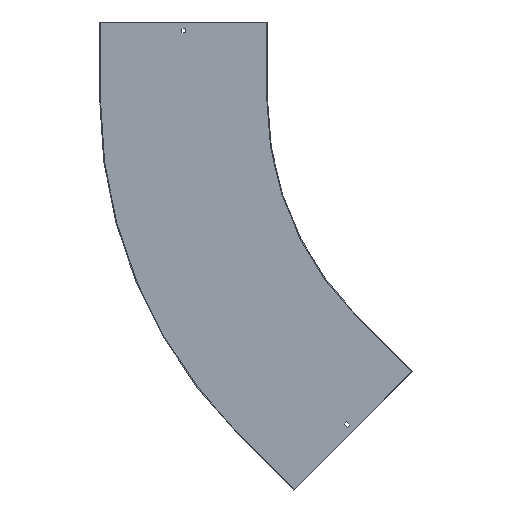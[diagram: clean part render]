
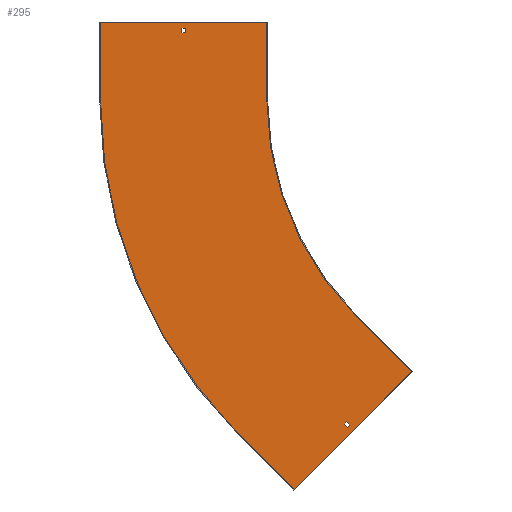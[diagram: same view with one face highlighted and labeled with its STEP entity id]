
A CAD part, front view. The second image highlights one B-rep face of the part: STEP entity #295.
In plain terms, the highlighted planar face has unit normal (0, -1, 0).
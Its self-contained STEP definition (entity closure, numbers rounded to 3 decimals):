
#6 = ORIENTED_EDGE ( 'NONE', *, *, #359, .T. ) ;
#10 = CARTESIAN_POINT ( 'NONE',  ( -528.032, -1.5, -528.032 ) ) ;
#13 = VERTEX_POINT ( 'NONE', #125 ) ;
#21 = VECTOR ( 'NONE', #682, 1000. ) ;
#24 = AXIS2_PLACEMENT_3D ( 'NONE', #96, #162, #231 ) ;
#25 = ORIENTED_EDGE ( 'NONE', *, *, #154, .F. ) ;
#32 = VERTEX_POINT ( 'NONE', #576 ) ;
#42 = AXIS2_PLACEMENT_3D ( 'NONE', #799, #733, #424 ) ;
#58 = EDGE_CURVE ( 'NONE', #406, #191, #315, .T. ) ;
#59 = LINE ( 'NONE', #780, #844 ) ;
#60 = CARTESIAN_POINT ( 'NONE',  ( -746.75, -1.5, 0. ) ) ;
#72 = CARTESIAN_POINT ( 'NONE',  ( -532.628, -1.5, -532.628 ) ) ;
#75 = DIRECTION ( 'NONE',  ( 1., 0., 0. ) ) ;
#77 = CARTESIAN_POINT ( 'NONE',  ( -537.401, -1.5, -749.533 ) ) ;
#87 = EDGE_CURVE ( 'NONE', #13, #294, #570, .T. ) ;
#93 = VECTOR ( 'NONE', #600, 1000. ) ;
#94 = ORIENTED_EDGE ( 'NONE', *, *, #470, .F. ) ;
#96 = CARTESIAN_POINT ( 'NONE',  ( 0., -1.5, 0. ) ) ;
#114 = CARTESIAN_POINT ( 'NONE',  ( -746.75, -1.5, 138. ) ) ;
#117 = EDGE_CURVE ( 'NONE', #750, #477, #512, .T. ) ;
#123 = ORIENTED_EDGE ( 'NONE', *, *, #423, .T. ) ;
#124 = LINE ( 'NONE', #132, #462 ) ;
#125 = CARTESIAN_POINT ( 'NONE',  ( -590., -1.5, 150. ) ) ;
#132 = CARTESIAN_POINT ( 'NONE',  ( -310.066, -1.5, -522.198 ) ) ;
#154 = EDGE_CURVE ( 'NONE', #32, #539, #334, .T. ) ;
#155 = FACE_BOUND ( 'NONE', #502, .T. ) ;
#162 = DIRECTION ( 'NONE',  ( 0., -1., 0. ) ) ;
#165 = FACE_BOUND ( 'NONE', #484, .T. ) ;
#178 = DIRECTION ( 'NONE',  ( 0.707, 0., -0.707 ) ) ;
#191 = VERTEX_POINT ( 'NONE', #535 ) ;
#198 = EDGE_CURVE ( 'NONE', #354, #750, #338, .T. ) ;
#221 = CARTESIAN_POINT ( 'NONE',  ( -311.127, -1.5, -523.259 ) ) ;
#222 = VERTEX_POINT ( 'NONE', #615 ) ;
#225 = ORIENTED_EDGE ( 'NONE', *, *, #642, .F. ) ;
#231 = DIRECTION ( 'NONE',  ( 0., 0., -1. ) ) ;
#236 = ORIENTED_EDGE ( 'NONE', *, *, #241, .F. ) ;
#238 = DIRECTION ( 'NONE',  ( 0., 0., -1. ) ) ;
#241 = EDGE_CURVE ( 'NONE', #674, #558, #282, .T. ) ;
#253 = VERTEX_POINT ( 'NONE', #626 ) ;
#266 = LINE ( 'NONE', #675, #21 ) ;
#269 = DIRECTION ( 'NONE',  ( -0.707, 0., 0.707 ) ) ;
#273 = DIRECTION ( 'NONE',  ( -0.707, 0., -0.707 ) ) ;
#282 = LINE ( 'NONE', #483, #574 ) ;
#289 = ORIENTED_EDGE ( 'NONE', *, *, #717, .F. ) ;
#294 = VERTEX_POINT ( 'NONE', #541 ) ;
#295 = ADVANCED_FACE ( 'NONE', ( #155, #763, #165 ), #696, .T. ) ;
#308 = LINE ( 'NONE', #631, #449 ) ;
#311 = VECTOR ( 'NONE', #238, 1000. ) ;
#315 = LINE ( 'NONE', #60, #785 ) ;
#334 = LINE ( 'NONE', #77, #803 ) ;
#338 = LINE ( 'NONE', #10, #487 ) ;
#344 = CARTESIAN_POINT ( 'NONE',  ( -753.25, -1.5, 129. ) ) ;
#347 = ORIENTED_EDGE ( 'NONE', *, *, #683, .T. ) ;
#353 = CARTESIAN_POINT ( 'NONE',  ( -430.451, -1.5, -625.613 ) ) ;
#354 = VERTEX_POINT ( 'NONE', #353 ) ;
#359 = EDGE_CURVE ( 'NONE', #191, #689, #308, .T. ) ;
#369 = CARTESIAN_POINT ( 'NONE',  ( 97.581, -1.5, -97.581 ) ) ;
#373 = AXIS2_PLACEMENT_3D ( 'NONE', #579, #848, #442 ) ;
#379 = ORIENTED_EDGE ( 'NONE', *, *, #58, .T. ) ;
#394 = CIRCLE ( 'NONE', #373, 590. ) ;
#401 = CARTESIAN_POINT ( 'NONE',  ( -911.5, -1.5, 150. ) ) ;
#402 = CARTESIAN_POINT ( 'NONE',  ( -643.467, -1.5, -643.467 ) ) ;
#403 = EDGE_LOOP ( 'NONE', ( #289, #236, #496, #25, #612, #531, #225, #812 ) ) ;
#406 = VERTEX_POINT ( 'NONE', #114 ) ;
#423 = EDGE_CURVE ( 'NONE', #554, #406, #845, .T. ) ;
#424 = DIRECTION ( 'NONE',  ( 0., 0., -1. ) ) ;
#426 = EDGE_CURVE ( 'NONE', #253, #835, #59, .T. ) ;
#442 = DIRECTION ( 'NONE',  ( 0., 0., -1. ) ) ;
#444 = DIRECTION ( 'NONE',  ( -1., 0., 0. ) ) ;
#449 = VECTOR ( 'NONE', #444, 1000. ) ;
#453 = DIRECTION ( 'NONE',  ( -0.707, 0., -0.707 ) ) ;
#462 = VECTOR ( 'NONE', #273, 1000. ) ;
#467 = ORIENTED_EDGE ( 'NONE', *, *, #536, .F. ) ;
#470 = EDGE_CURVE ( 'NONE', #222, #354, #840, .T. ) ;
#477 = VERTEX_POINT ( 'NONE', #499 ) ;
#483 = CARTESIAN_POINT ( 'NONE',  ( -910., -1.5, 0. ) ) ;
#484 = EDGE_LOOP ( 'NONE', ( #123, #379, #6, #347 ) ) ;
#486 = VECTOR ( 'NONE', #453, 1000. ) ;
#487 = VECTOR ( 'NONE', #269, 1000. ) ;
#496 = ORIENTED_EDGE ( 'NONE', *, *, #796, .F. ) ;
#498 = EDGE_CURVE ( 'NONE', #835, #32, #124, .T. ) ;
#499 = CARTESIAN_POINT ( 'NONE',  ( -441.411, -1.5, -623.845 ) ) ;
#502 = EDGE_LOOP ( 'NONE', ( #622, #94, #467, #598 ) ) ;
#503 = DIRECTION ( 'NONE',  ( 1., 0., 0. ) ) ;
#512 = LINE ( 'NONE', #789, #486 ) ;
#520 = CARTESIAN_POINT ( 'NONE',  ( -753.25, -1.5, 138. ) ) ;
#524 = LINE ( 'NONE', #72, #93 ) ;
#527 = CARTESIAN_POINT ( 'NONE',  ( -910., -1.5, 0. ) ) ;
#531 = ORIENTED_EDGE ( 'NONE', *, *, #426, .F. ) ;
#532 = CARTESIAN_POINT ( 'NONE',  ( -436.815, -1.5, -619.249 ) ) ;
#534 = CARTESIAN_POINT ( 'NONE',  ( -910., -1.5, 150. ) ) ;
#535 = CARTESIAN_POINT ( 'NONE',  ( -746.75, -1.5, 129. ) ) ;
#536 = EDGE_CURVE ( 'NONE', #477, #222, #524, .T. ) ;
#539 = VERTEX_POINT ( 'NONE', #402 ) ;
#541 = CARTESIAN_POINT ( 'NONE',  ( -590., -1.5, 0. ) ) ;
#554 = VERTEX_POINT ( 'NONE', #520 ) ;
#558 = VERTEX_POINT ( 'NONE', #534 ) ;
#566 = DIRECTION ( 'NONE',  ( 0.707, 0., 0.707 ) ) ;
#570 = LINE ( 'NONE', #841, #311 ) ;
#572 = VECTOR ( 'NONE', #75, 1000. ) ;
#574 = VECTOR ( 'NONE', #684, 1000. ) ;
#576 = CARTESIAN_POINT ( 'NONE',  ( -537.401, -1.5, -749.533 ) ) ;
#579 = CARTESIAN_POINT ( 'NONE',  ( 0., -1.5, 0. ) ) ;
#581 = CARTESIAN_POINT ( 'NONE',  ( 0., -1.5, 138. ) ) ;
#598 = ORIENTED_EDGE ( 'NONE', *, *, #117, .F. ) ;
#600 = DIRECTION ( 'NONE',  ( 0.707, 0., -0.707 ) ) ;
#612 = ORIENTED_EDGE ( 'NONE', *, *, #498, .F. ) ;
#615 = CARTESIAN_POINT ( 'NONE',  ( -435.047, -1.5, -630.209 ) ) ;
#622 = ORIENTED_EDGE ( 'NONE', *, *, #198, .F. ) ;
#626 = CARTESIAN_POINT ( 'NONE',  ( -417.193, -1.5, -417.193 ) ) ;
#631 = CARTESIAN_POINT ( 'NONE',  ( 0., -1.5, 129. ) ) ;
#642 = EDGE_CURVE ( 'NONE', #294, #253, #394, .T. ) ;
#657 = CIRCLE ( 'NONE', #42, 910. ) ;
#674 = VERTEX_POINT ( 'NONE', #527 ) ;
#675 = CARTESIAN_POINT ( 'NONE',  ( -753.25, -1.5, 0. ) ) ;
#682 = DIRECTION ( 'NONE',  ( 0., 0., 1. ) ) ;
#683 = EDGE_CURVE ( 'NONE', #689, #554, #266, .T. ) ;
#684 = DIRECTION ( 'NONE',  ( 0., 0., 1. ) ) ;
#689 = VERTEX_POINT ( 'NONE', #344 ) ;
#694 = VECTOR ( 'NONE', #566, 1000. ) ;
#696 = PLANE ( 'NONE',  #24 ) ;
#717 = EDGE_CURVE ( 'NONE', #558, #13, #746, .T. ) ;
#728 = DIRECTION ( 'NONE',  ( 0., 0., -1. ) ) ;
#733 = DIRECTION ( 'NONE',  ( 0., 1., 0. ) ) ;
#737 = DIRECTION ( 'NONE',  ( -0.707, 0., 0.707 ) ) ;
#746 = LINE ( 'NONE', #401, #572 ) ;
#750 = VERTEX_POINT ( 'NONE', #532 ) ;
#763 = FACE_OUTER_BOUND ( 'NONE', #403, .T. ) ;
#780 = CARTESIAN_POINT ( 'NONE',  ( -417.193, -1.5, -417.193 ) ) ;
#785 = VECTOR ( 'NONE', #728, 1000. ) ;
#789 = CARTESIAN_POINT ( 'NONE',  ( 91.217, -1.5, -91.217 ) ) ;
#796 = EDGE_CURVE ( 'NONE', #539, #674, #657, .T. ) ;
#799 = CARTESIAN_POINT ( 'NONE',  ( 0., -1.5, 0. ) ) ;
#803 = VECTOR ( 'NONE', #737, 1000. ) ;
#812 = ORIENTED_EDGE ( 'NONE', *, *, #87, .F. ) ;
#835 = VERTEX_POINT ( 'NONE', #221 ) ;
#840 = LINE ( 'NONE', #369, #694 ) ;
#841 = CARTESIAN_POINT ( 'NONE',  ( -590., -1.5, 150. ) ) ;
#844 = VECTOR ( 'NONE', #178, 1000. ) ;
#845 = LINE ( 'NONE', #581, #859 ) ;
#848 = DIRECTION ( 'NONE',  ( 0., -1., 0. ) ) ;
#859 = VECTOR ( 'NONE', #503, 1000. ) ;
